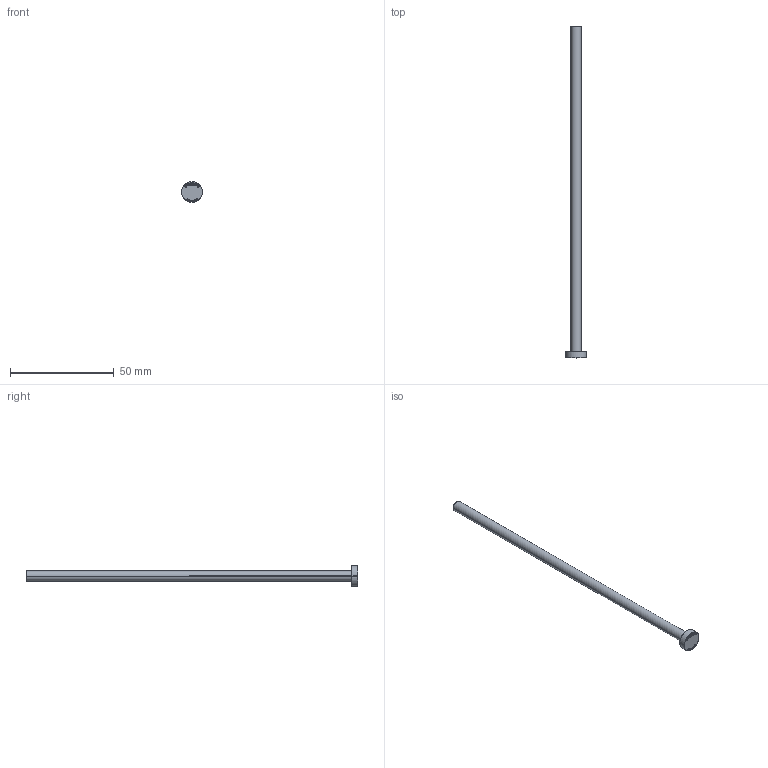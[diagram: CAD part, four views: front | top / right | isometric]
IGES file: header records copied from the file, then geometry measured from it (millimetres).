
Start section: SolidWorks IGES file using analytic representation for surfaces
Global section: file name: C:\Users\User\Downloads\Matripeça 31-08 tar\PB - PINO EXTRATOR TIPO _B_ (CATÁLOGO)\PB05,0\PB05,0160.IGS; native system: SolidWorks 2024; preprocessor: SolidWorks 2024; author: User; date: 260901.142612; units: millimetre
Bounding box: 10 x 160 x 10 mm (x, y, z)
Surface area: 2723.3 mm2 (no closed solid volume)
Topology: 0 solids, 0 shells, 399 faces, 3560 edges, 3560 vertices
Faces by surface type: bspline 385, revolution 14
